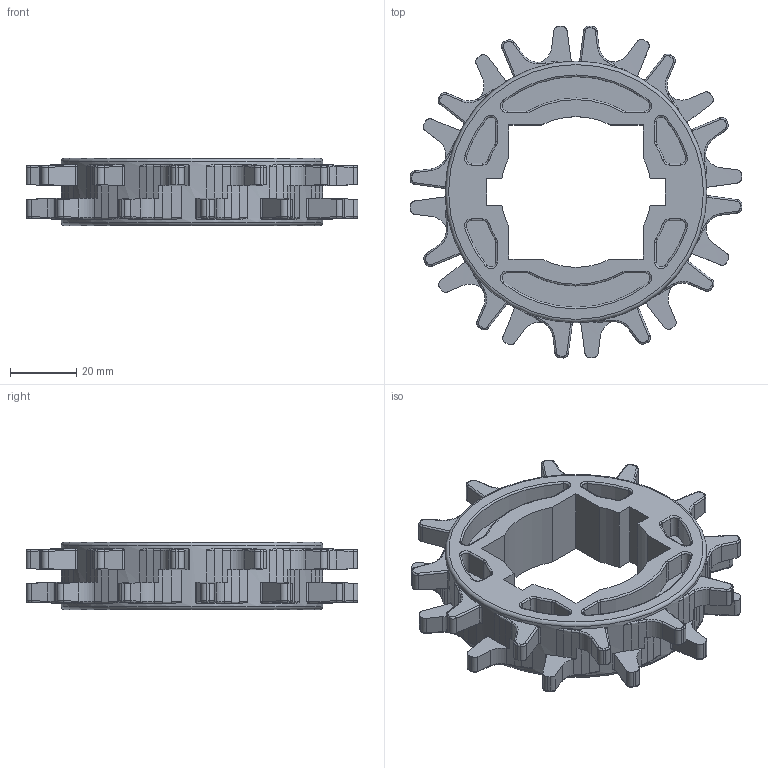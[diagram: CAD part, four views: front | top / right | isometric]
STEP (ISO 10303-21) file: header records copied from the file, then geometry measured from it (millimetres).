
FILE_DESCRIPTION(/* description */ (''),/* implementation_level */ '2;1');
FILE_NAME(/* name */ 'HS-500-12T-2R.stp',/* time_stamp */ '2021-07-16T15:26:35+08:00',/* author */ (''),/* organization */ (''),/* preprocessor_version */ 'ST-DEVELOPER v15',/* originating_system */ 'SIEMENS PLM Software NX 8.5',/* authorisation */ '');
FILE_SCHEMA (('AP203_CONFIGURATION_CONTROLLED_3D_DESIGN_OF_MECHANICAL_PARTS_AND_ASSEMBLIES_MIM_LF { 1 0 10303 403 2 1 2}'));
Length unit declared in the file: millimetre
Products named in the file (1): Admi25F0CA09b9oa
Bounding box: 100.2 x 100.2 x 20.29 mm (x, y, z)
Volume: 58902.5 mm3; surface area: 24456.7 mm2
Topology: 1 solids, 1 shells, 769 faces, 2045 edges, 1302 vertices
Faces by surface type: bspline 240, cylinder 223, plane 184, torus 74, cone 48
Full cylindrical faces by diameter (mm): 78.9 x1
Entity records: 36330 total; most frequent: CARTESIAN_POINT 14972, ORIENTED_EDGE 4106, DIRECTION 2148, EDGE_CURVE 2053, B_SPLINE_CURVE_WITH_KNOTS 1317, VERTEX_POINT 1313, AXIS2_PLACEMENT_3D 882, EDGE_LOOP 798
